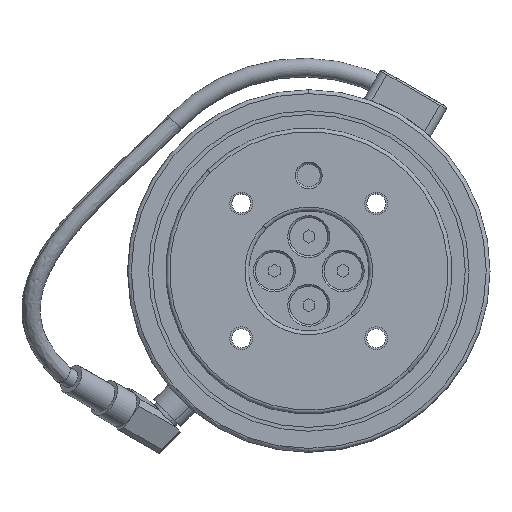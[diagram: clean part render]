
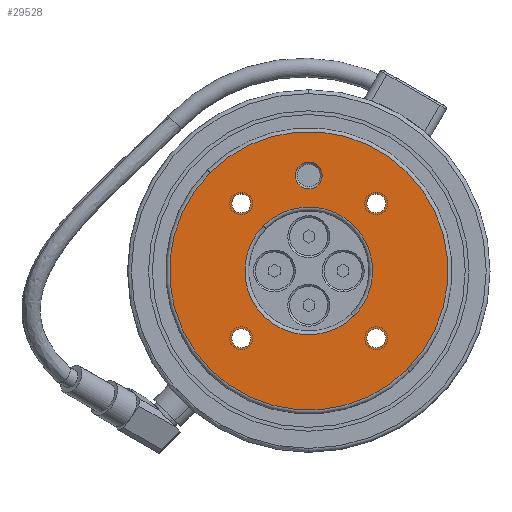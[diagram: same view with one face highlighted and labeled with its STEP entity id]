
A CAD part, top view. The second image highlights one B-rep face of the part: STEP entity #29528.
In plain terms, the highlighted planar face has unit normal (0, 0, 1) as drawn and (0, -1, 0) by its records, which use the part's own axes.
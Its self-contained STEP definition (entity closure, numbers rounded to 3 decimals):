
#28471=CARTESIAN_POINT('',(0.,0.,0.));
#28472=DIRECTION('',(0.,-1.,0.));
#28473=DIRECTION('',(1.,0.,0.));
#28474=AXIS2_PLACEMENT_3D('',#28471,#28472,#28473);
#28491=CARTESIAN_POINT('',(0.,0.,0.));
#28492=DIRECTION('',(0.,-1.,0.));
#28493=DIRECTION('',(-1.,0.,0.));
#28494=AXIS2_PLACEMENT_3D('',#28491,#28492,#28493);
#28663=CARTESIAN_POINT('',(0.,0.,0.));
#28664=DIRECTION('',(0.,1.,0.));
#28665=DIRECTION('',(-1.,0.,0.));
#28666=AXIS2_PLACEMENT_3D('',#28663,#28664,#28665);
#28668=CARTESIAN_POINT('',(0.,0.,0.));
#28669=DIRECTION('',(0.,1.,0.));
#28670=DIRECTION('',(1.,0.,0.));
#28671=AXIS2_PLACEMENT_3D('',#28668,#28669,#28670);
#28673=CARTESIAN_POINT('',(25.,0.,0.));
#28674=DIRECTION('',(0.,-1.,0.));
#28675=DIRECTION('',(0.,0.,-1.));
#28676=AXIS2_PLACEMENT_3D('',#28673,#28674,#28675);
#28678=CARTESIAN_POINT('',(25.,0.,0.));
#28679=DIRECTION('',(0.,-1.,0.));
#28680=DIRECTION('',(0.,0.,1.));
#28681=AXIS2_PLACEMENT_3D('',#28678,#28679,#28680);
#28683=CARTESIAN_POINT('',(0.,0.,25.));
#28684=DIRECTION('',(0.,-1.,0.));
#28685=DIRECTION('',(1.,0.,0.));
#28686=AXIS2_PLACEMENT_3D('',#28683,#28684,#28685);
#28688=CARTESIAN_POINT('',(0.,0.,25.));
#28689=DIRECTION('',(0.,-1.,0.));
#28690=DIRECTION('',(-1.,0.,0.));
#28691=AXIS2_PLACEMENT_3D('',#28688,#28689,#28690);
#28693=CARTESIAN_POINT('',(-25.,0.,0.));
#28694=DIRECTION('',(0.,-1.,0.));
#28695=DIRECTION('',(0.,0.,1.));
#28696=AXIS2_PLACEMENT_3D('',#28693,#28694,#28695);
#28698=CARTESIAN_POINT('',(-25.,0.,0.));
#28699=DIRECTION('',(0.,-1.,0.));
#28700=DIRECTION('',(0.,0.,-1.));
#28701=AXIS2_PLACEMENT_3D('',#28698,#28699,#28700);
#28703=CARTESIAN_POINT('',(0.,0.,0.));
#28704=DIRECTION('',(0.,-1.,0.));
#28705=DIRECTION('',(1.,0.,0.015));
#28706=AXIS2_PLACEMENT_3D('',#28703,#28704,#28705);
#28708=CARTESIAN_POINT('',(0.,0.,0.));
#28709=DIRECTION('',(0.,-1.,0.));
#28710=DIRECTION('',(-1.,0.,-0.015));
#28711=AXIS2_PLACEMENT_3D('',#28708,#28709,#28710);
#28713=CARTESIAN_POINT('',(0.,0.,-25.));
#28714=DIRECTION('',(0.,-1.,0.));
#28715=DIRECTION('',(-1.,0.,0.));
#28716=AXIS2_PLACEMENT_3D('',#28713,#28714,#28715);
#28718=CARTESIAN_POINT('',(0.,0.,-25.));
#28719=DIRECTION('',(0.,-1.,0.));
#28720=DIRECTION('',(1.,0.,0.));
#28721=AXIS2_PLACEMENT_3D('',#28718,#28719,#28720);
#28723=CARTESIAN_POINT('',(-17.678,0.,
17.678));
#28724=DIRECTION('',(0.,-1.,0.));
#28725=DIRECTION('',(-1.,0.,0.));
#28726=AXIS2_PLACEMENT_3D('',#28723,#28724,#28725);
#28728=CARTESIAN_POINT('',(-17.678,0.,
17.678));
#28729=DIRECTION('',(0.,-1.,0.));
#28730=DIRECTION('',(0.,0.,-1.));
#28731=AXIS2_PLACEMENT_3D('',#28728,#28729,#28730);
#28733=CARTESIAN_POINT('',(-17.678,0.,
17.678));
#28734=DIRECTION('',(0.,-1.,0.));
#28735=DIRECTION('',(1.,0.,0.));
#28736=AXIS2_PLACEMENT_3D('',#28733,#28734,#28735);
#28738=CARTESIAN_POINT('',(-17.678,0.,
17.678));
#28739=DIRECTION('',(0.,-1.,0.));
#28740=DIRECTION('',(0.,0.,1.));
#28741=AXIS2_PLACEMENT_3D('',#28738,#28739,#28740);
#28767=CARTESIAN_POINT('',(0.,0.,0.));
#28768=DIRECTION('',(0.,1.,0.));
#28769=DIRECTION('',(1.,0.,0.015));
#28770=AXIS2_PLACEMENT_3D('',#28767,#28768,#28769);
#28787=CARTESIAN_POINT('',(0.,0.,0.));
#28788=DIRECTION('',(0.,1.,0.));
#28789=DIRECTION('',(-1.,0.,-0.015));
#28790=AXIS2_PLACEMENT_3D('',#28787,#28788,#28789);
#29101=CARTESIAN_POINT('',(36.5,0.,0.));
#29102=VERTEX_POINT('',#29101);
#29103=CARTESIAN_POINT('',(-36.5,0.,0.));
#29104=CARTESIAN_POINT('',(36.5,0.,0.154));
#29105=VERTEX_POINT('',#29103);
#29106=VERTEX_POINT('',#29104);
#29109=CARTESIAN_POINT('',(-36.5,0.,-0.154));
#29110=VERTEX_POINT('',#29109);
#29177=CARTESIAN_POINT('',(2.5,0.,-25.));
#29178=VERTEX_POINT('',#29177);
#29179=CARTESIAN_POINT('',(-2.5,0.,-25.));
#29180=VERTEX_POINT('',#29179);
#29181=CARTESIAN_POINT('',(25.,0.,-2.5));
#29182=CARTESIAN_POINT('',(25.,0.,2.5));
#29183=VERTEX_POINT('',#29181);
#29184=VERTEX_POINT('',#29182);
#29185=CARTESIAN_POINT('',(2.5,0.,25.));
#29186=CARTESIAN_POINT('',(-2.5,0.,25.));
#29187=VERTEX_POINT('',#29185);
#29188=VERTEX_POINT('',#29186);
#29189=CARTESIAN_POINT('',(-25.,0.,2.5));
#29190=CARTESIAN_POINT('',(-25.,0.,-2.5));
#29191=VERTEX_POINT('',#29189);
#29192=VERTEX_POINT('',#29190);
#29193=CARTESIAN_POINT('',(16.748,0.,0.248));
#29194=CARTESIAN_POINT('',(-16.75,0.,0.007));
#29195=VERTEX_POINT('',#29193);
#29196=VERTEX_POINT('',#29194);
#29197=CARTESIAN_POINT('',(16.75,0.,-0.007));
#29198=VERTEX_POINT('',#29197);
#29199=CARTESIAN_POINT('',(-16.748,0.,-0.248));
#29200=VERTEX_POINT('',#29199);
#29201=CARTESIAN_POINT('',(-17.678,0.,
14.173));
#29202=CARTESIAN_POINT('',(-14.173,0.,
17.678));
#29203=VERTEX_POINT('',#29201);
#29204=VERTEX_POINT('',#29202);
#29205=CARTESIAN_POINT('',(-21.183,0.,
17.678));
#29206=VERTEX_POINT('',#29205);
#29207=CARTESIAN_POINT('',(-17.678,0.,
21.183));
#29208=VERTEX_POINT('',#29207);
#29475=CARTESIAN_POINT('',(0.,0.,0.));
#29476=DIRECTION('',(0.,-1.,0.));
#29477=DIRECTION('',(-1.,0.,0.));
#29478=AXIS2_PLACEMENT_3D('',#29475,#29476,#29477);
#29479=PLANE('',#29478);
#29480=ORIENTED_EDGE('',*,*,#29300,.T.);
#29481=ORIENTED_EDGE('',*,*,#29298,.F.);
#29482=ORIENTED_EDGE('',*,*,#29319,.T.);
#29483=ORIENTED_EDGE('',*,*,#29317,.F.);
#29484=EDGE_LOOP('',(#29480,#29481,#29482,#29483));
#29485=FACE_OUTER_BOUND('',#29484,.F.);
#29487=ORIENTED_EDGE('',*,*,#29486,.T.);
#29489=ORIENTED_EDGE('',*,*,#29488,.T.);
#29490=EDGE_LOOP('',(#29487,#29489));
#29491=FACE_BOUND('',#29490,.F.);
#29493=ORIENTED_EDGE('',*,*,#29492,.T.);
#29495=ORIENTED_EDGE('',*,*,#29494,.T.);
#29496=EDGE_LOOP('',(#29493,#29495));
#29497=FACE_BOUND('',#29496,.F.);
#29499=ORIENTED_EDGE('',*,*,#29498,.T.);
#29501=ORIENTED_EDGE('',*,*,#29500,.T.);
#29502=EDGE_LOOP('',(#29499,#29501));
#29503=FACE_BOUND('',#29502,.F.);
#29505=ORIENTED_EDGE('',*,*,#29504,.F.);
#29507=ORIENTED_EDGE('',*,*,#29506,.T.);
#29509=ORIENTED_EDGE('',*,*,#29508,.F.);
#29511=ORIENTED_EDGE('',*,*,#29510,.T.);
#29512=EDGE_LOOP('',(#29505,#29507,#29509,#29511));
#29513=FACE_BOUND('',#29512,.F.);
#29514=ORIENTED_EDGE('',*,*,#29455,.T.);
#29515=ORIENTED_EDGE('',*,*,#29469,.T.);
#29516=EDGE_LOOP('',(#29514,#29515));
#29517=FACE_BOUND('',#29516,.F.);
#29519=ORIENTED_EDGE('',*,*,#29518,.T.);
#29521=ORIENTED_EDGE('',*,*,#29520,.T.);
#29523=ORIENTED_EDGE('',*,*,#29522,.T.);
#29525=ORIENTED_EDGE('',*,*,#29524,.T.);
#29526=EDGE_LOOP('',(#29519,#29521,#29523,#29525));
#29527=FACE_BOUND('',#29526,.F.);
#29528=ADVANCED_FACE('',(#29485,#29491,#29497,#29503,#29513,#29517,#29527),
#29479,.T.);
#28475=CIRCLE('',#28474,36.5);
#28495=CIRCLE('',#28494,36.5);
#28667=CIRCLE('',#28666,36.5);
#28672=CIRCLE('',#28671,36.5);
#28677=CIRCLE('',#28676,2.5);
#28682=CIRCLE('',#28681,2.5);
#28687=CIRCLE('',#28686,2.5);
#28692=CIRCLE('',#28691,2.5);
#28697=CIRCLE('',#28696,2.5);
#28702=CIRCLE('',#28701,2.5);
#28707=CIRCLE('',#28706,16.75);
#28712=CIRCLE('',#28711,16.75);
#28717=CIRCLE('',#28716,2.5);
#28722=CIRCLE('',#28721,2.5);
#28727=CIRCLE('',#28726,3.505);
#28732=CIRCLE('',#28731,3.505);
#28737=CIRCLE('',#28736,3.505);
#28742=CIRCLE('',#28741,3.505);
#28771=CIRCLE('',#28770,16.75);
#28791=CIRCLE('',#28790,16.75);
#29298=EDGE_CURVE('',#29102,#29106,#28475,.T.);
#29300=EDGE_CURVE('',#29105,#29106,#28667,.T.);
#29317=EDGE_CURVE('',#29105,#29110,#28495,.T.);
#29319=EDGE_CURVE('',#29102,#29110,#28672,.T.);
#29455=EDGE_CURVE('',#29180,#29178,#28717,.T.);
#29469=EDGE_CURVE('',#29178,#29180,#28722,.T.);
#29486=EDGE_CURVE('',#29183,#29184,#28677,.T.);
#29488=EDGE_CURVE('',#29184,#29183,#28682,.T.);
#29492=EDGE_CURVE('',#29187,#29188,#28687,.T.);
#29494=EDGE_CURVE('',#29188,#29187,#28692,.T.);
#29498=EDGE_CURVE('',#29191,#29192,#28697,.T.);
#29500=EDGE_CURVE('',#29192,#29191,#28702,.T.);
#29504=EDGE_CURVE('',#29195,#29198,#28771,.T.);
#29506=EDGE_CURVE('',#29195,#29196,#28707,.T.);
#29508=EDGE_CURVE('',#29200,#29196,#28791,.T.);
#29510=EDGE_CURVE('',#29200,#29198,#28712,.T.);
#29518=EDGE_CURVE('',#29206,#29203,#28727,.T.);
#29520=EDGE_CURVE('',#29203,#29204,#28732,.T.);
#29522=EDGE_CURVE('',#29204,#29208,#28737,.T.);
#29524=EDGE_CURVE('',#29208,#29206,#28742,.T.);
